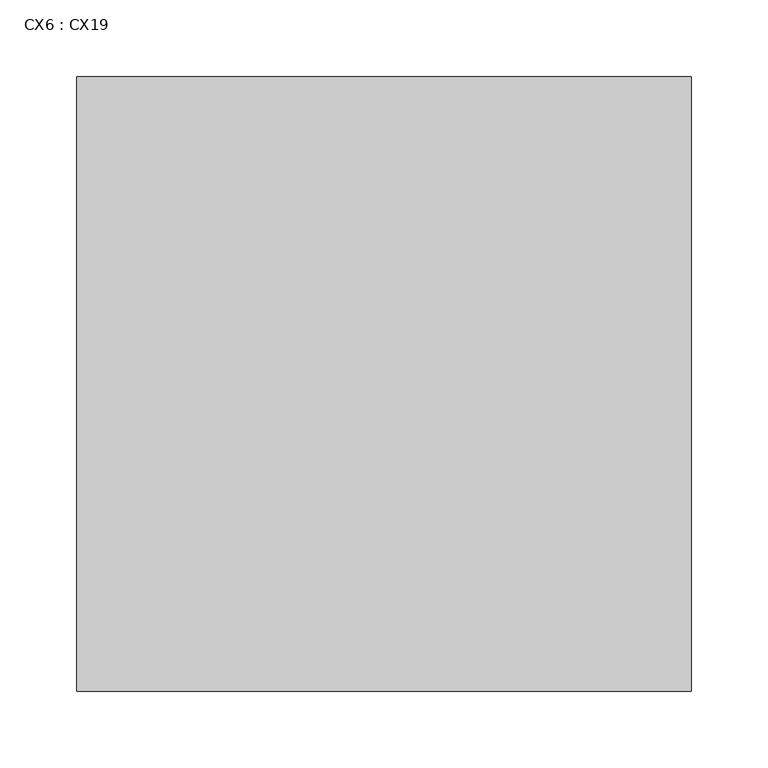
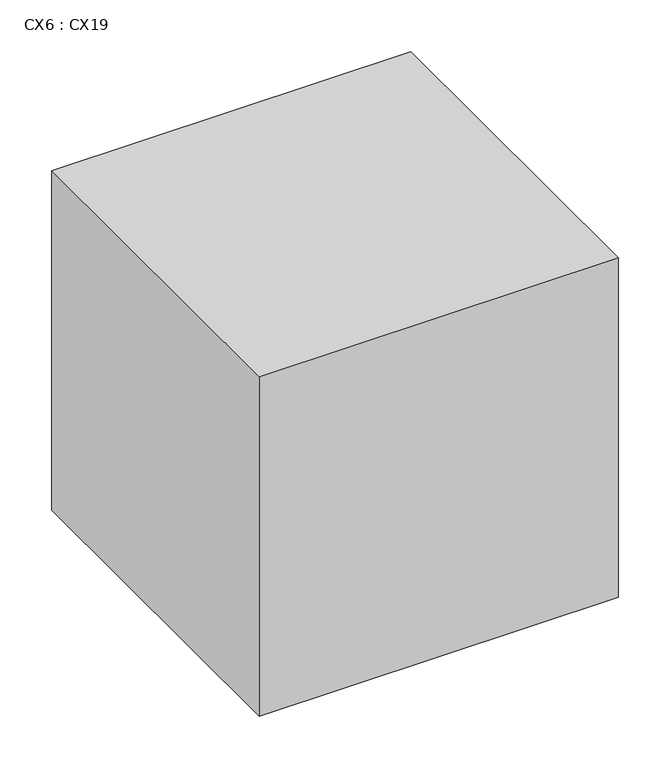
"""IFC4 building model written with IfcOpenShell, lengths in millimetres: proxy geometry, CX6 : CX19."""

from ifc_helpers import new_model, si_unit, frame, origin, place, context, project, spatial, polyline, outline, extrude, source, transform, mapped, element, save


def cx6_cx19_24c6d47e(model_context):
    return source(origin(), model_context, "Body", "SweptSolid", [
        extrude(outline(polyline([(-165.0513489, 19725.2121745), (-165.0513489, 19325.2121745), (-565.0513489, 19325.2121745), (-565.0513489, 19725.2121745), (-165.0513489, 19725.2121745)])), frame((0.0, 0.0, 1130.0), z_axis=(0.0, 0.0, 1.0), x_axis=(1.0, 0.0, 0.0)), (0.0, 0.0, 1.0), 400.0),
    ])


if __name__ == "__main__":
    model = new_model("IFC4")
    model_context = context("Model", 3, world=origin())
    ifc_project = project(units=[si_unit("LENGTHUNIT", "METRE", prefix="MILLI")], contexts=[model_context])
    site = spatial("IfcSite", under=ifc_project)
    building = spatial("IfcBuilding", under=site)
    placement = place(None, origin())
    cx6_cx19_shape = cx6_cx19_24c6d47e(model_context)
    element("IfcBuildingElementProxy", 1, Name="CX6 : CX19", ObjectType="CX6 : CX19", at=placement, inside=building, context=model_context, shape_type="MappedRepresentation", body=[
        mapped(cx6_cx19_shape, transform((0.0, 0.0, 0.0), x_axis=(1.0, 0.0, 0.0), y_axis=(0.0, 1.0, 0.0), z_axis=(0.0, 0.0, 1.0))),
    ])
    save(model, "model.ifc")
